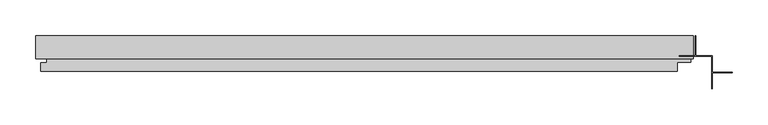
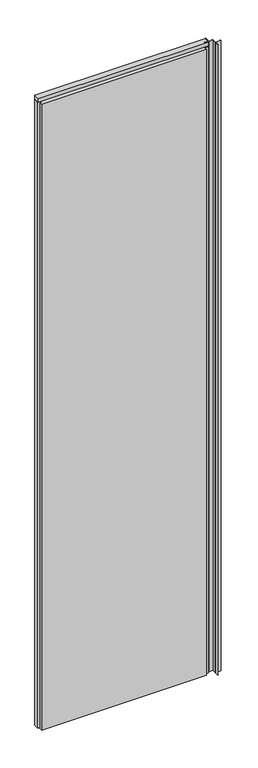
"""IFC4 building model written with IfcOpenShell, lengths in millimetres: plate geometry, Trimo_Qbiss Screen_Normal Panel-VERTICAL : HR - FB-F."""

from ifc_helpers import new_model, si_unit, frame, origin, place, context, project, spatial, polyline, outline, extrude, source, transform, mapped, element, save


def plate_bcce995c(model_context):
    return source(origin(), model_context, "Body", "SweptSolid", [
        extrude(outline(polyline([(496.0, 97.0), (477.0, 97.0), (477.0, 126.0), (496.0, 126.0), (496.0, 97.0)])), frame((0.0, 0.0, 12.5), z_axis=(0.0, 0.0, 1.0), x_axis=(1.0, 0.0, 0.0)), (0.0, 0.0, 1.0), 3575.0),
        extrude(outline(polyline([(-425.0, 93.9), (-425.0, 126.0), (496.0, 126.0), (496.0, 93.9), (-425.0, 93.9)])), frame((0.0, 0.0, 3590.5), z_axis=(0.0, 0.0, 1.0), x_axis=(1.0, 0.0, 0.0)), (0.0, 0.0, 1.0), 19.0),
        extrude(outline(polyline([(474.0, 97.0), (492.5, 97.0), (492.5, 89.0), (474.0, 89.0), (474.0, 76.0), (-418.0, 76.0), (-418.0, 88.0), (-409.5, 88.0), (-409.5, 98.0), (-425.0, 98.0), (-425.0, 126.0), (474.0, 126.0), (474.0, 97.0)])), frame((0.0, 0.0, 12.5), z_axis=(0.0, 0.0, 1.0), x_axis=(1.0, 0.0, 0.0)), (0.0, 0.0, 1.0), 3575.0),
        extrude(outline(polyline([(499.0, 126.0), (499.8, 126.0), (499.8, 97.8), (522.8, 97.8), (522.8, 74.8), (551.0, 74.8), (551.0, 74.0), (522.8, 74.0), (522.8, 52.0), (522.0, 52.0), (522.0, 97.0), (477.0, 97.0), (477.0, 97.8), (499.0, 97.8), (499.0, 126.0)])), frame((0.0, 0.0, 12.5), z_axis=(0.0, 0.0, 1.0), x_axis=(1.0, 0.0, 0.0)), (0.0, 0.0, 1.0), 3600.0),
    ])


if __name__ == "__main__":
    model = new_model("IFC4")
    model_context = context("Model", 3, world=origin())
    ifc_project = project(units=[si_unit("LENGTHUNIT", "METRE", prefix="MILLI")], contexts=[model_context])
    site = spatial("IfcSite", under=ifc_project)
    building = spatial("IfcBuilding", under=site)
    placement = place(None, origin())
    plate_shape = plate_bcce995c(model_context)
    element("IfcPlate", 1, ObjectType="Trimo_Qbiss Screen_Normal Panel-VERTICAL : HR - FB-F", at=placement, inside=building, context=model_context, shape_type="MappedRepresentation", body=[
        mapped(plate_shape, transform((0.0, 0.0, 0.0), x_axis=(1.0, 0.0, 0.0), y_axis=(0.0, 1.0, 0.0), z_axis=(0.0, 0.0, 1.0))),
    ])
    save(model, "model.ifc")
